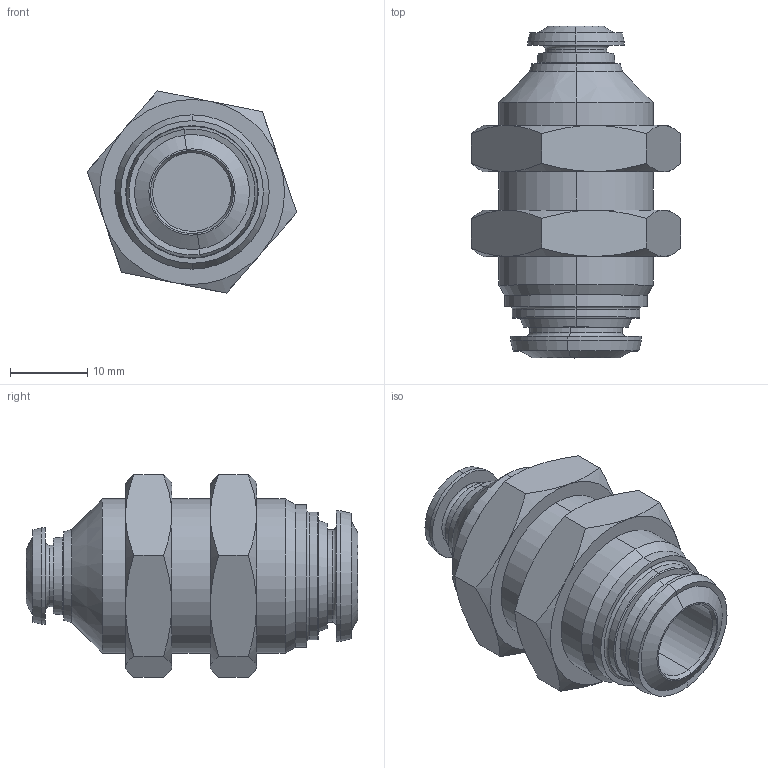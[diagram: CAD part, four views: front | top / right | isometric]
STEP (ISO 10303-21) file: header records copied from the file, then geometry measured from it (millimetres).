
FILE_DESCRIPTION (( 'STEP AP214' ), '1' );
FILE_NAME ('5005000010A.STEP', '2019-06-18T08:04:08', ( 'AIGNEP' ), ( 'Hewlett-Packard Company' ), 'SwSTEP 2.0', 'SolidWorks 2016', '' );
FILE_SCHEMA (( 'AUTOMOTIVE_DESIGN' ));
Length unit declared in the file: millimetre
Products named in the file (1): 5005000010A
Bounding box: 27.18 x 43.05 x 26.24 mm (x, y, z)
Volume: 11825.6 mm3; surface area: 4793.7 mm2
Topology: 1 solids, 1 shells, 129 faces, 264 edges, 152 vertices
Faces by surface type: cone 54, cylinder 34, plane 29, torus 12
Entity records: 3984 total; most frequent: CARTESIAN_POINT 834, DIRECTION 616, ORIENTED_EDGE 528, AXIS2_PLACEMENT_3D 270, EDGE_CURVE 264, VERTEX_POINT 152, EDGE_LOOP 144, CIRCLE 140
